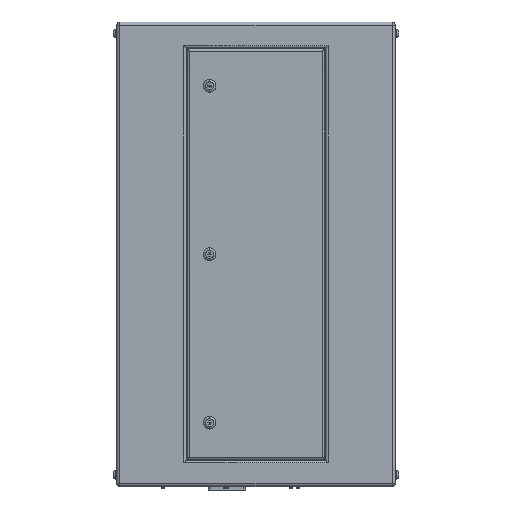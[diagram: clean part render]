
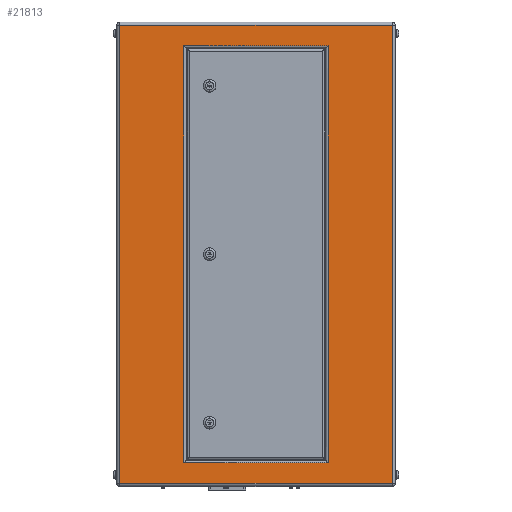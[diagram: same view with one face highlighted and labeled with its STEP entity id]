
A CAD part, left-side view. The second image highlights one B-rep face of the part: STEP entity #21813.
In plain terms, the highlighted planar face has unit normal (-1, 0, 0).
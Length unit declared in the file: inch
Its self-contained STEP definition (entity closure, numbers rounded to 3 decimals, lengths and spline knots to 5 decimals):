
#112 = ORIENTED_EDGE ( 'NONE', *, *, #3323, .T. ) ;
#204 = CARTESIAN_POINT ( 'NONE',  ( -16., 12., -20. ) ) ;
#705 = AXIS2_PLACEMENT_3D ( 'NONE', #204, #34172, #25497 ) ;
#1515 = VECTOR ( 'NONE', #29116, 39.37008 ) ;
#1689 = CARTESIAN_POINT ( 'NONE',  ( -16., -11.734, 19.734 ) ) ;
#3323 = EDGE_CURVE ( 'NONE', #7909, #16667, #6916, .T. ) ;
#3708 = CARTESIAN_POINT ( 'NONE',  ( -16., 6., -17.95 ) ) ;
#5644 = PLANE ( 'NONE',  #705 ) ;
#6329 = EDGE_CURVE ( 'NONE', #24135, #13655, #26633, .T. ) ;
#6524 = ORIENTED_EDGE ( 'NONE', *, *, #20786, .T. ) ;
#6862 = CARTESIAN_POINT ( 'NONE',  ( -16., -6.2, 17.95 ) ) ;
#6916 = LINE ( 'NONE', #13113, #37230 ) ;
#7357 = ORIENTED_EDGE ( 'NONE', *, *, #15260, .T. ) ;
#7597 = EDGE_CURVE ( 'NONE', #13655, #14928, #16441, .T. ) ;
#7909 = VERTEX_POINT ( 'NONE', #36287 ) ;
#8325 = FACE_OUTER_BOUND ( 'NONE', #22369, .T. ) ;
#11064 = ORIENTED_EDGE ( 'NONE', *, *, #19578, .T. ) ;
#12189 = LINE ( 'NONE', #3708, #27420 ) ;
#13113 = CARTESIAN_POINT ( 'NONE',  ( -16., 12., 19.734 ) ) ;
#13655 = VERTEX_POINT ( 'NONE', #6862 ) ;
#13665 = EDGE_CURVE ( 'NONE', #24321, #24176, #32176, .T. ) ;
#13896 = VERTEX_POINT ( 'NONE', #31039 ) ;
#14928 = VERTEX_POINT ( 'NONE', #28975 ) ;
#15260 = EDGE_CURVE ( 'NONE', #24176, #7909, #21698, .T. ) ;
#15559 = LINE ( 'NONE', #18758, #20607 ) ;
#15738 = DIRECTION ( 'NONE',  ( 0., -1., 0. ) ) ;
#16441 = LINE ( 'NONE', #21584, #28577 ) ;
#16518 = CARTESIAN_POINT ( 'NONE',  ( -16., 6.2, 17.95 ) ) ;
#16667 = VERTEX_POINT ( 'NONE', #26170 ) ;
#17254 = EDGE_LOOP ( 'NONE', ( #24912, #23436, #6524, #18988 ) ) ;
#17567 = FACE_BOUND ( 'NONE', #17254, .T. ) ;
#18758 = CARTESIAN_POINT ( 'NONE',  ( -16., 6.2, 17.75 ) ) ;
#18988 = ORIENTED_EDGE ( 'NONE', *, *, #27140, .T. ) ;
#19322 = ORIENTED_EDGE ( 'NONE', *, *, #13665, .T. ) ;
#19578 = EDGE_CURVE ( 'NONE', #16667, #24321, #26081, .T. ) ;
#20607 = VECTOR ( 'NONE', #27609, 39.37008 ) ;
#20786 = EDGE_CURVE ( 'NONE', #14928, #13896, #12189, .T. ) ;
#20830 = CARTESIAN_POINT ( 'NONE',  ( -16., 11.734, -20. ) ) ;
#20998 = CARTESIAN_POINT ( 'NONE',  ( -16., -6., 17.95 ) ) ;
#21584 = CARTESIAN_POINT ( 'NONE',  ( -16., -6.2, -17.75 ) ) ;
#21698 = LINE ( 'NONE', #1689, #31329 ) ;
#21807 = DIRECTION ( 'NONE',  ( 0., 1., 0. ) ) ;
#21813 = ADVANCED_FACE ( 'NONE', ( #17567, #8325 ), #5644, .F. ) ;
#22369 = EDGE_LOOP ( 'NONE', ( #19322, #7357, #112, #11064 ) ) ;
#23225 = DIRECTION ( 'NONE',  ( 0., -1., 0. ) ) ;
#23436 = ORIENTED_EDGE ( 'NONE', *, *, #7597, .T. ) ;
#24135 = VERTEX_POINT ( 'NONE', #16518 ) ;
#24176 = VERTEX_POINT ( 'NONE', #28807 ) ;
#24321 = VERTEX_POINT ( 'NONE', #35761 ) ;
#24912 = ORIENTED_EDGE ( 'NONE', *, *, #6329, .T. ) ;
#25497 = DIRECTION ( 'NONE',  ( 0., 0., -1. ) ) ;
#26081 = LINE ( 'NONE', #20830, #1515 ) ;
#26170 = CARTESIAN_POINT ( 'NONE',  ( -16., 11.734, 19.734 ) ) ;
#26633 = LINE ( 'NONE', #20998, #27319 ) ;
#26742 = DIRECTION ( 'NONE',  ( 0., 1., 0. ) ) ;
#27140 = EDGE_CURVE ( 'NONE', #13896, #24135, #15559, .T. ) ;
#27319 = VECTOR ( 'NONE', #23225, 39.37008 ) ;
#27420 = VECTOR ( 'NONE', #26742, 39.37008 ) ;
#27609 = DIRECTION ( 'NONE',  ( 0., 0., 1. ) ) ;
#28577 = VECTOR ( 'NONE', #36460, 39.37008 ) ;
#28807 = CARTESIAN_POINT ( 'NONE',  ( -16., -11.734, -19.734 ) ) ;
#28975 = CARTESIAN_POINT ( 'NONE',  ( -16., -6.2, -17.95 ) ) ;
#29116 = DIRECTION ( 'NONE',  ( 0., 0., -1. ) ) ;
#29339 = VECTOR ( 'NONE', #15738, 39.37008 ) ;
#30212 = DIRECTION ( 'NONE',  ( 0., 0., 1. ) ) ;
#31039 = CARTESIAN_POINT ( 'NONE',  ( -16., 6.2, -17.95 ) ) ;
#31329 = VECTOR ( 'NONE', #30212, 39.37008 ) ;
#32176 = LINE ( 'NONE', #35559, #29339 ) ;
#34172 = DIRECTION ( 'NONE',  ( 1., 0., 0. ) ) ;
#35559 = CARTESIAN_POINT ( 'NONE',  ( -16., 12., -19.734 ) ) ;
#35761 = CARTESIAN_POINT ( 'NONE',  ( -16., 11.734, -19.734 ) ) ;
#36287 = CARTESIAN_POINT ( 'NONE',  ( -16., -11.734, 19.734 ) ) ;
#36460 = DIRECTION ( 'NONE',  ( 0., 0., -1. ) ) ;
#37230 = VECTOR ( 'NONE', #21807, 39.37008 ) ;
